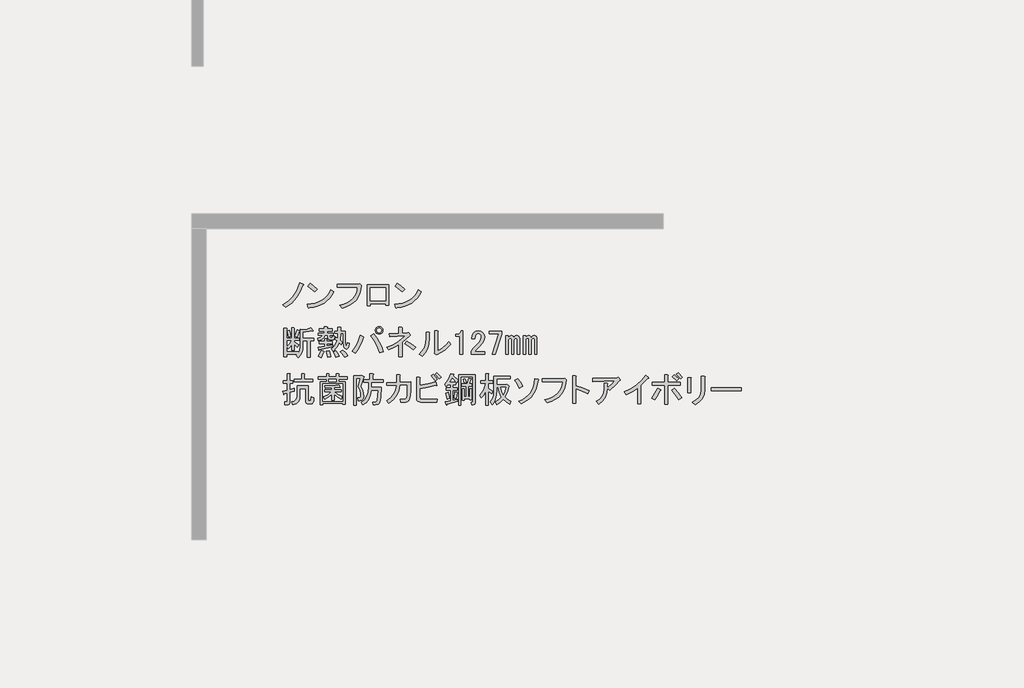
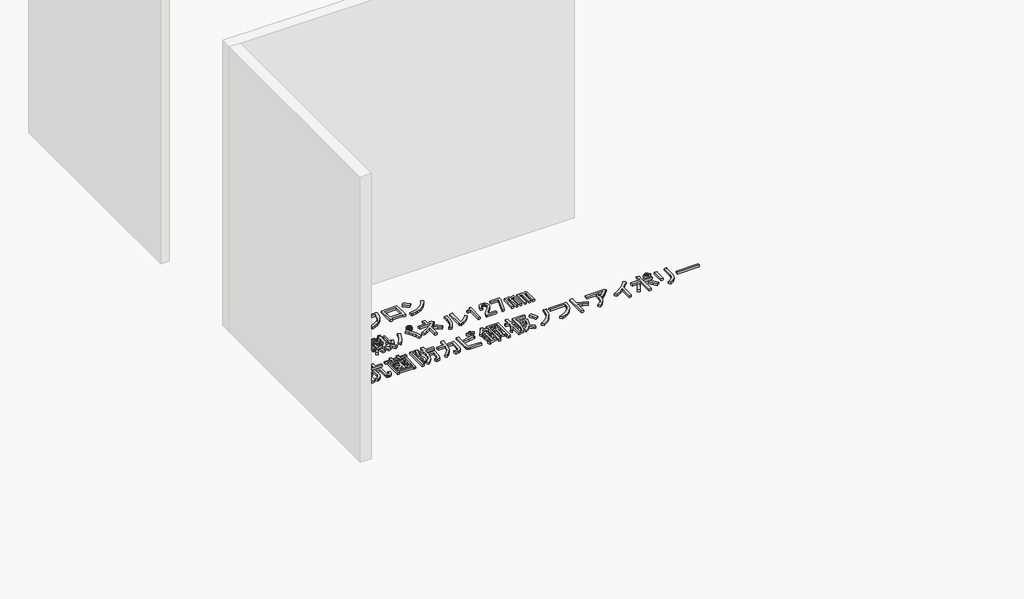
# One storey, part 20 of 117: 1 proxy.
"""IFC4 building model written with IfcOpenShell, lengths in millimetres."""

from ifc_helpers import new_model, si_unit, frame, origin, place, context, project, spatial, polyline, outline, extrude, element, save

model = new_model("IFC4")

# Units and contexts
model_context = context("Model", 3, world=origin())
ifc_project = project(units=[si_unit("LENGTHUNIT", "METRE", prefix="MILLI")], contexts=[model_context])

# Site, building, storey
site = spatial("IfcSite", under=ifc_project)
building = spatial("IfcBuilding", under=site)
storey = spatial("IfcBuildingStorey", under=building, Name="レベル 1", Elevation=500.0)

# Proxy
placement = place(None, origin())
element("IfcBuildingElementProxy", 1, Name="200㎜\u3000MS Pゴシック", ObjectType="200㎜\u3000MS Pゴシック", at=placement, inside=storey, context=model_context, shape_type="SweptSolid", body=[
    extrude(outline(polyline([(-7056.3293015, -8607.0496882), (-7081.9047498, -8666.8215225), (-7110.353844, -8712.7998566), (-7152.0217093, -8758.2034615), (-7201.1610538, -8795.560858), (-7228.7480543, -8773.7211493), (-7181.0455327, -8743.2605029), (-7141.3892195, -8704.7536481), (-7124.0036619, -8680.8305462), (-7108.6296565, -8652.7406577), (-7095.2672031, -8620.4839827), (-7083.9163019, -8584.0605212), (-7052.8809264, -8597.8540214), (-7049.7199159, -8602.4518548), (-7056.3293015, -8607.0496882)])), frame((0.0, 0.0, 500.0), z_axis=(0.0, 0.0, 1.0), x_axis=(1.0, 0.0, 0.0)), (0.0, 0.0, 1.0), 25.0),
    extrude(outline(polyline([(-6956.6022948, -8662.2236891), (-7015.2246708, -8615.0958967), (-6995.6838788, -8590.9572713), (-6968.3842429, -8610.7854279), (-6934.7625862, -8640.3839804), (-6956.6022948, -8662.2236891)])), frame((0.0, 0.0, 500.0), z_axis=(0.0, 0.0, 1.0), x_axis=(1.0, 0.0, 0.0)), (0.0, 0.0, 1.0), 25.0),
    extrude(outline(polyline([(-6794.5286672, -8662.2236891), (-6811.052131, -8691.965924), (-6830.1618761, -8717.9724192), (-6851.8579025, -8740.2431748), (-6876.1402102, -8758.7781907), (-6903.0087992, -8773.577467), (-6932.4636694, -8784.6410036), (-6964.504821, -8791.9688006), (-6999.1322539, -8795.560858), (-7004.8795456, -8803.6070664), (-7010.6268374, -8797.8597747), (-7019.8225042, -8767.9738575), (-6983.9917321, -8765.2977748), (-6951.2142088, -8758.9937141), (-6921.4899342, -8749.0616756), (-6894.8189084, -8735.5016591), (-6871.2011313, -8718.3136646), (-6850.636603, -8697.4976923), (-6833.1253234, -8673.053742), (-6818.6672926, -8644.9818138), (-6794.5286672, -8662.2236891)])), frame((0.0, 0.0, 500.0), z_axis=(0.0, 0.0, 1.0), x_axis=(1.0, 0.0, 0.0)), (0.0, 0.0, 1.0), 25.0),
    extrude(outline(polyline([(-6743.7685864, -8777.1695243), (-6709.985287, -8767.4889298), (-6680.4765359, -8755.1142922), (-6655.242333, -8740.0456116), (-6634.2826783, -8722.282888), (-6617.597572, -8701.8261214), (-6605.1870138, -8678.6753118), (-6597.0510039, -8652.8304591), (-6593.1895423, -8624.2915635), (-6765.6082951, -8624.2915635), (-6765.6082951, -8599.0034798), (-6590.8906256, -8599.0034798), (-6574.7982086, -8595.5551047), (-6562.1541668, -8607.0496882), (-6565.674383, -8643.5449909), (-6573.9361149, -8676.5919185), (-6586.9393625, -8706.1904711), (-6604.6841258, -8732.3406486), (-6627.1704048, -8755.042451), (-6654.3981995, -8774.2958784), (-6686.3675099, -8790.1009308), (-6723.078336, -8802.4576081), (-6743.7685864, -8777.1695243)])), frame((0.0, 0.0, 500.0), z_axis=(0.0, 0.0, 1.0), x_axis=(1.0, 0.0, 0.0)), (0.0, 0.0, 1.0), 25.0),
    extrude(outline(polyline([(-6329.044013, -8776.020066), (-6355.4815551, -8776.020066), (-6355.4815551, -8763.3760241), (-6483.0714321, -8763.3760241), (-6483.0714321, -8781.7673577), (-6509.5089742, -8781.7673577), (-6509.5089742, -8602.4518548), (-6329.044013, -8602.4518548), (-6329.044013, -8776.020066)]), holes=[polyline([(-6483.0714321, -8627.7399386), (-6483.0714321, -8738.0879404), (-6355.4815551, -8738.0879404), (-6355.4815551, -8627.7399386), (-6483.0714321, -8627.7399386)])]), frame((0.0, 0.0, 500.0), z_axis=(0.0, 0.0, 1.0), x_axis=(1.0, 0.0, 0.0)), (0.0, 0.0, 1.0), 25.0),
    extrude(outline(polyline([(-6052.9900951, -8662.2236891), (-6069.5135589, -8691.965924), (-6088.623304, -8717.9724192), (-6110.3193304, -8740.2431748), (-6134.6016381, -8758.7781907), (-6161.4702271, -8773.577467), (-6190.9250974, -8784.6410036), (-6222.9662489, -8791.9688006), (-6257.5936818, -8795.560858), (-6263.3409736, -8803.6070664), (-6269.0882653, -8797.8597747), (-6278.2839321, -8767.9738575), (-6242.4531601, -8765.2977748), (-6209.6756367, -8758.9937141), (-6179.9513622, -8749.0616756), (-6153.2803363, -8735.5016591), (-6129.6625593, -8718.3136646), (-6109.0980309, -8697.4976923), (-6091.5867514, -8673.053742), (-6077.1287205, -8644.9818138), (-6052.9900951, -8662.2236891)])), frame((0.0, 0.0, 500.0), z_axis=(0.0, 0.0, 1.0), x_axis=(1.0, 0.0, 0.0)), (0.0, 0.0, 1.0), 25.0),
    extrude(outline(polyline([(-6215.0637228, -8662.2236891), (-6273.6860987, -8615.0958967), (-6254.1453067, -8590.9572713), (-6226.8456709, -8610.7854279), (-6193.2240141, -8640.3839804), (-6215.0637228, -8662.2236891)])), frame((0.0, 0.0, 500.0), z_axis=(0.0, 0.0, 1.0), x_axis=(1.0, 0.0, 0.0)), (0.0, 0.0, 1.0), 25.0),
    extrude(outline(polyline([(-7122.9978859, -9039.2345221), (-7105.7560106, -8986.3594379), (-7085.0657603, -8992.1067296), (-7083.3415727, -8995.2677401), (-7087.364677, -8997.8540214), (-7104.6065523, -9046.1312722), (-7122.9978859, -9039.2345221)])), frame((0.0, 0.0, 500.0), z_axis=(0.0, 0.0, 1.0), x_axis=(1.0, 0.0, 0.0)), (0.0, 0.0, 1.0), 25.0),
    extrude(outline(polyline([(-6968.9704667, -8990.9572713), (-6970.6946542, -8995.5551047), (-6978.1661335, -8993.256188), (-7055.1798431, -9005.9002299), (-7055.1798431, -9055.326939), (-6963.2231749, -9055.326939), (-6963.2231749, -9077.1666477), (-6994.2585505, -9077.1666477), (-6994.2585505, -9217.4005666), (-7017.2477175, -9217.4005666), (-7017.2477175, -9077.1666477), (-7055.1798431, -9077.1666477), (-7055.1798431, -9126.5933568), (-7057.7661244, -9154.3958807), (-7065.5249683, -9179.1810764), (-7078.4563747, -9200.948944), (-7096.5603438, -9219.6994833), (-7113.8022191, -9200.1586914), (-7103.4570939, -9190.9630245), (-7193.1148454, -9190.9630245), (-7193.1148454, -9212.8027332), (-7216.1040124, -9212.8027332), (-7216.1040124, -8973.715396), (-7194.2643037, -8973.715396), (-7189.3791057, -8976.0143127), (-7193.1148454, -8980.6121461), (-7193.1148454, -9056.4763974), (-7150.5848863, -9056.4763974), (-7150.5848863, -8969.1175626), (-7132.1935527, -8969.1175626), (-7127.3083547, -8971.4164793), (-7131.0440943, -8976.0143127), (-7131.0440943, -9056.4763974), (-7087.364677, -9056.4763974), (-7087.364677, -9074.867731), (-7131.0440943, -9074.867731), (-7131.0440943, -9084.0633978), (-7090.813052, -9110.5009399), (-7104.6065523, -9132.3406486), (-7131.0440943, -9105.9031065), (-7131.0440943, -9158.7781907), (-7150.5848863, -9158.7781907), (-7150.5848863, -9110.5009399), (-7163.8036574, -9130.3290965), (-7178.1718868, -9146.1341488), (-7190.8159287, -9127.7428152), (-7168.97622, -9103.6041898), (-7151.7343447, -9074.867731), (-7193.1148454, -9074.867731), (-7193.1148454, -9169.1233159), (-7095.4108854, -9169.1233159), (-7095.4108854, -9182.9168161), (-7082.479479, -9158.7781907), (-7078.1690102, -9125.4438985), (-7078.1690102, -8980.6121461), (-7056.3293015, -8986.3594379), (-7020.1213634, -8978.8879586), (-6989.660717, -8965.6691875), (-6968.9704667, -8990.9572713)])), frame((0.0, 0.0, 500.0), z_axis=(0.0, 0.0, 1.0), x_axis=(1.0, 0.0, 0.0)), (0.0, 0.0, 1.0), 25.0),
    extrude(outline(polyline([(-7177.0224284, -9047.2807305), (-7189.6664703, -8996.7045631), (-7170.1256783, -8989.8078129), (-7162.3668344, -9013.9464383), (-7157.4816364, -9040.3839804), (-7177.0224284, -9047.2807305)])), frame((0.0, 0.0, 500.0), z_axis=(0.0, 0.0, 1.0), x_axis=(1.0, 0.0, 0.0)), (0.0, 0.0, 1.0), 25.0),
    extrude(outline(polyline([(-6878.1632569, -9167.9738575), (-6874.7148818, -9172.8590555), (-6880.4621736, -9176.020066), (-6890.2325696, -9201.5955143), (-6901.1524239, -9220.8489417), (-6924.141591, -9209.3543582), (-6911.4975491, -9185.790462), (-6901.1524239, -9158.7781907), (-6878.1632569, -9167.9738575)])), frame((0.0, 0.0, 500.0), z_axis=(0.0, 0.0, 1.0), x_axis=(1.0, 0.0, 0.0)), (0.0, 0.0, 1.0), 25.0),
    extrude(outline(polyline([(-6833.3343812, -9163.3760241), (-6823.2766206, -9190.67566), (-6818.3914226, -9212.8027332), (-6847.1278814, -9218.550025), (-6849.7141627, -9196.9976809), (-6857.4730066, -9166.8243992), (-6833.3343812, -9163.3760241)])), frame((0.0, 0.0, 500.0), z_axis=(0.0, 0.0, 1.0), x_axis=(1.0, 0.0, 0.0)), (0.0, 0.0, 1.0), 25.0),
    extrude(outline(polyline([(-6718.388546, -9157.6287323), (-6693.6751914, -9178.8937119), (-6674.7091286, -9203.6070664), (-6701.1466707, -9218.550025), (-6720.4000981, -9188.9514724), (-6739.0787963, -9169.1233159), (-6718.388546, -9157.6287323)])), frame((0.0, 0.0, 500.0), z_axis=(0.0, 0.0, 1.0), x_axis=(1.0, 0.0, 0.0)), (0.0, 0.0, 1.0), 25.0),
    extrude(outline(polyline([(-6777.0109219, -9216.2511083), (-6785.344495, -9191.5377537), (-6798.8506306, -9170.2727742), (-6778.1603803, -9162.2265657), (-6761.2058696, -9183.7789098), (-6749.4239215, -9207.0554415), (-6777.0109219, -9216.2511083)])), frame((0.0, 0.0, 500.0), z_axis=(0.0, 0.0, 1.0), x_axis=(1.0, 0.0, 0.0)), (0.0, 0.0, 1.0), 25.0),
    extrude(outline(polyline([(-6916.0953825, -9153.0308989), (-6918.1069346, -9157.9160969), (-6921.8426743, -9156.479274), (-6927.589966, -9132.3406486), (-6872.4159651, -9124.2944401), (-6872.4159651, -9101.3052731), (-6916.0953825, -9101.3052731), (-6916.0953825, -9082.9139395), (-6872.4159651, -9082.9139395), (-6872.4159651, -9059.9247724), (-6854.0246315, -9059.9247724), (-6849.1394335, -9062.2236891), (-6852.8751732, -9066.8215225), (-6852.8751732, -9082.9139395), (-6808.0462974, -9082.9139395), (-6808.0462974, -9101.3052731), (-6852.8751732, -9101.3052731), (-6852.8751732, -9120.8460651), (-6802.2990057, -9111.6503983), (-6802.2990057, -9127.7428152), (-6916.0953825, -9153.0308989)])), frame((0.0, 0.0, 500.0), z_axis=(0.0, 0.0, 1.0), x_axis=(1.0, 0.0, 0.0)), (0.0, 0.0, 1.0), 25.0),
    extrude(outline(polyline([(-6845.978423, -9031.1883136), (-6871.2665068, -9031.1883136), (-6875.8643402, -9048.6457123), (-6886.2094654, -9061.9363245), (-6902.3018823, -9071.0601502), (-6924.141591, -9076.0171893), (-6928.7394244, -9056.4763974), (-6903.4513406, -9047.8554597), (-6895.9798614, -9040.5276627), (-6891.9567571, -9031.1883136), (-6927.589966, -9031.1883136), (-6927.589966, -9012.79698), (-6873.5654235, -9012.79698), (-6873.5654235, -8995.5551047), (-6917.2448409, -8995.5551047), (-6917.2448409, -8977.1637711), (-6873.5654235, -8977.1637711), (-6873.5654235, -8958.7724374), (-6851.7257148, -8958.7724374), (-6846.8405168, -8961.0713541), (-6850.5762564, -8965.6691875), (-6850.5762564, -8977.1637711), (-6808.0462974, -8977.1637711), (-6808.0462974, -8995.5551047), (-6850.5762564, -8995.5551047), (-6850.5762564, -9012.79698), (-6797.7011723, -9012.79698), (-6797.7011723, -9031.1883136), (-6826.4376311, -9031.1883136), (-6826.4376311, -9043.8323555), (-6825.0008081, -9049.0049181), (-6820.6903393, -9050.7291056), (-6810.3452141, -9050.7291056), (-6806.6094745, -9047.5680951), (-6806.8968391, -9038.0850637), (-6787.3560471, -9040.3839804), (-6790.229693, -9061.9363245), (-6795.5459378, -9067.3244106), (-6803.448464, -9069.1204392), (-6827.5870894, -9069.1204392), (-6841.3805896, -9064.2352412), (-6845.978423, -9049.5796472), (-6845.978423, -9031.1883136)])), frame((0.0, 0.0, 500.0), z_axis=(0.0, 0.0, 1.0), x_axis=(1.0, 0.0, 0.0)), (0.0, 0.0, 1.0), 25.0),
    extrude(outline(polyline([(-6714.9401709, -9013.9464383), (-6736.7798796, -9013.9464383), (-6741.377713, -9071.4193559), (-6721.836921, -9089.8106896), (-6732.1820462, -9111.6503983), (-6748.2744631, -9095.5579813), (-6767.5278905, -9133.2027424), (-6797.7011723, -9165.6749408), (-6814.9430475, -9144.9846905), (-6799.8564067, -9133.0590601), (-6786.7813179, -9117.9724192), (-6775.7177813, -9099.7247679), (-6766.6657967, -9078.316106), (-6783.907672, -9063.3731475), (-6775.8614636, -9046.1312722), (-6762.0679633, -9056.4763974), (-6759.7690466, -9013.9464383), (-6787.3560471, -9013.9464383), (-6787.3560471, -8995.5551047), (-6759.7690466, -8995.5551047), (-6759.7690466, -8961.0713541), (-6737.9293379, -8961.0713541), (-6733.04414, -8963.3702708), (-6736.7798796, -8967.9681043), (-6736.7798796, -8995.5551047), (-6695.3993789, -8995.5551047), (-6695.3993789, -9092.1096063), (-6691.9510039, -9116.2482317), (-6688.7181523, -9118.2597838), (-6685.9163475, -9115.0987733), (-6681.6058787, -9093.2590646), (-6662.0650867, -9100.1558147), (-6666.591079, -9126.9525626), (-6674.421764, -9142.9731384), (-6685.5571418, -9148.2175421), (-6699.9972123, -9142.6857738), (-6706.5347567, -9135.3579768), (-6711.2044313, -9123.719711), (-6714.9401709, -9087.5117729), (-6714.9401709, -9013.9464383)])), frame((0.0, 0.0, 500.0), z_axis=(0.0, 0.0, 1.0), x_axis=(1.0, 0.0, 0.0)), (0.0, 0.0, 1.0), 25.0),
    extrude(outline(polyline([(-6456.3120417, -9016.245355), (-6429.6589762, -9052.9561812), (-6407.1726971, -9090.6727833), (-6388.8532047, -9129.3951616), (-6374.7004987, -9169.1233159), (-6405.7358742, -9179.468441), (-6421.1817208, -9136.3637528), (-6438.7828018, -9097.856898), (-6458.5391173, -9063.9478766), (-6480.4506671, -9034.6366887), (-6456.3120417, -9016.245355)])), frame((0.0, 0.0, 500.0), z_axis=(0.0, 0.0, 1.0), x_axis=(1.0, 0.0, 0.0)), (0.0, 0.0, 1.0), 25.0),
    extrude(outline(polyline([(-6543.6708765, -9042.6828971), (-6539.6477722, -9048.1428243), (-6545.9697932, -9053.0280223), (-6557.8954236, -9088.4457078), (-6572.9820644, -9122.282888), (-6591.2297158, -9154.539563), (-6612.6383776, -9185.2157328), (-6639.0759197, -9167.9738575), (-6615.8712292, -9136.5074351), (-6596.8333252, -9103.0294606), (-6581.9622078, -9067.539934), (-6571.2578769, -9030.0388553), (-6543.6708765, -9042.6828971)])), frame((0.0, 0.0, 500.0), z_axis=(0.0, 0.0, 1.0), x_axis=(1.0, 0.0, 0.0)), (0.0, 0.0, 1.0), 25.0),
    extrude(outline(polyline([(-6410.3337076, -9021.9926468), (-6422.9777495, -9019.6937301), (-6433.3228747, -9012.79698), (-6440.2196248, -9002.4518548), (-6442.5185415, -8989.8078129), (-6440.2196248, -8977.1637711), (-6433.3228747, -8966.8186459), (-6422.9777495, -8959.9218958), (-6410.3337076, -8957.6229791), (-6397.6896657, -8959.9218958), (-6387.3445406, -8966.8186459), (-6380.4477905, -8977.1637711), (-6378.1488738, -8989.8078129), (-6380.4477905, -9002.4518548), (-6387.3445406, -9012.79698), (-6397.6896657, -9019.6937301), (-6410.3337076, -9021.9926468)]), holes=[polyline([(-6410.3337076, -9010.4980633), (-6402.0001346, -9009.0612403), (-6395.390749, -9004.7507715), (-6391.0802802, -8998.141386), (-6389.6434573, -8989.8078129), (-6391.0802802, -8981.4742399), (-6395.390749, -8974.8648544), (-6402.0001346, -8970.5543855), (-6410.3337076, -8969.1175626), (-6418.6672807, -8970.5543855), (-6425.2766662, -8974.8648544), (-6429.587135, -8981.4742399), (-6431.023958, -8989.8078129), (-6429.587135, -8998.141386), (-6425.2766662, -9004.7507715), (-6418.6672807, -9009.0612403), (-6410.3337076, -9010.4980633)])]), frame((0.0, 0.0, 500.0), z_axis=(0.0, 0.0, 1.0), x_axis=(1.0, 0.0, 0.0)), (0.0, 0.0, 1.0), 25.0),
    extrude(outline(polyline([(-6120.6702029, -9155.3298156), (-6157.7402348, -9126.0186277), (-6190.7871624, -9104.7536481), (-6173.5452871, -9082.9139395), (-6134.7510677, -9106.1904711), (-6101.1294109, -9132.3406486), (-6120.6702029, -9155.3298156)])), frame((0.0, 0.0, 500.0), z_axis=(0.0, 0.0, 1.0), x_axis=(1.0, 0.0, 0.0)), (0.0, 0.0, 1.0), 25.0),
    extrude(outline(polyline([(-6166.648537, -9011.6475216), (-6159.7517869, -9009.3486049), (-6147.107745, -9026.5904802), (-6145.9582866, -9032.6251366), (-6151.7055784, -9034.6366887), (-6214.9257878, -9090.9601479), (-6214.9257878, -9211.6532749), (-6241.3633299, -9211.6532749), (-6241.3633299, -9109.3514816), (-6281.5943722, -9133.4901069), (-6326.4232479, -9155.3298156), (-6345.9640399, -9134.6395653), (-6300.4167527, -9115.1706145), (-6259.1799343, -9092.3969709), (-6222.2535848, -9066.3186345), (-6189.637704, -9036.9356054), (-6319.5264978, -9042.6828971), (-6322.9748729, -9017.3948134), (-6241.3633299, -9015.0958967), (-6241.3633299, -8963.3702708), (-6218.3741628, -8963.3702708), (-6212.3395065, -8966.8186459), (-6214.9257878, -8972.5659377), (-6214.9257878, -9013.9464383), (-6166.648537, -9011.6475216)])), frame((0.0, 0.0, 500.0), z_axis=(0.0, 0.0, 1.0), x_axis=(1.0, 0.0, 0.0)), (0.0, 0.0, 1.0), 25.0),
    extrude(outline(polyline([(-6067.703162, -9193.2619413), (-6042.5587606, -9164.0225944), (-6024.5984738, -9131.4785548), (-6013.8223018, -9095.6298225), (-6010.2302444, -9056.4763974), (-6010.2302444, -9004.7507715), (-5986.091619, -9004.7507715), (-5980.3443273, -9008.1991466), (-5983.7927023, -9013.9464383), (-5983.7927023, -9055.326939), (-5987.6002831, -9101.0897496), (-5999.0230255, -9141.82368), (-6018.0609295, -9177.5287301), (-6044.713995, -9208.2048998), (-6067.703162, -9193.2619413)])), frame((0.0, 0.0, 500.0), z_axis=(0.0, 0.0, 1.0), x_axis=(1.0, 0.0, 0.0)), (0.0, 0.0, 1.0), 25.0),
    extrude(outline(polyline([(-5913.6757429, -9162.2265657), (-5888.8905471, -9150.0135708), (-5865.1111275, -9132.9153778), (-5842.3374839, -9110.9319868), (-5820.5696163, -9084.0633978), (-5804.4771994, -9105.9031065), (-5827.753731, -9133.7056304), (-5853.9039086, -9157.3413678), (-5882.9277319, -9176.8103186), (-5914.8252012, -9192.1124829), (-5924.020868, -9196.7103163), (-5942.4122017, -9182.9168161), (-5940.113285, -9177.1695243), (-5940.113285, -8992.1067296), (-5915.9746596, -8992.1067296), (-5910.2273678, -8995.5551047), (-5913.6757429, -9001.3023965), (-5913.6757429, -9162.2265657)])), frame((0.0, 0.0, 500.0), z_axis=(0.0, 0.0, 1.0), x_axis=(1.0, 0.0, 0.0)), (0.0, 0.0, 1.0), 25.0),
    extrude(outline(polyline([(-5725.1645731, -9015.0958967), (-5717.1183647, -9004.1760423), (-5713.6699896, -8992.1067296), (-5699.8764894, -8992.1067296), (-5699.8764894, -9190.9630245), (-5726.3140315, -9190.9630245), (-5726.3140315, -9038.0850637), (-5760.797782, -9038.0850637), (-5760.797782, -9024.2915635), (-5750.4526569, -9024.2915635), (-5736.0844275, -9021.9926468), (-5725.1645731, -9015.0958967)])), frame((0.0, 0.0, 500.0), z_axis=(0.0, 0.0, 1.0), x_axis=(1.0, 0.0, 0.0)), (0.0, 0.0, 1.0), 25.0),
    extrude(outline(polyline([(-5625.1616965, -9062.2236891), (-5620.5638631, -9030.900949), (-5606.7703629, -9008.1991466), (-5590.3905814, -8996.9919276), (-5571.137154, -8993.256188), (-5548.4353515, -8996.9919276), (-5530.9061116, -9008.1991466), (-5519.6988927, -9024.8662927), (-5515.9631531, -9044.9818138), (-5520.2736219, -9070.8446268), (-5533.2050283, -9093.2590646), (-5566.5393205, -9131.1911902), (-5584.9306542, -9151.8814406), (-5598.7241544, -9170.2727742), (-5512.514778, -9170.2727742), (-5512.514778, -9192.1124829), (-5629.7595299, -9192.1124829), (-5629.7595299, -9172.5716909), (-5623.7248736, -9158.7781907), (-5610.2187379, -9140.3868571), (-5563.0909455, -9088.6612312), (-5548.4353515, -9067.3962517), (-5543.5501535, -9044.9818138), (-5545.8490702, -9032.337772), (-5552.7458203, -9021.9926468), (-5560.5046642, -9016.8200842), (-5569.9876956, -9015.0958967), (-5578.6086332, -9016.8200842), (-5586.0801125, -9021.9926468), (-5595.5631439, -9038.3724283), (-5598.7241544, -9062.2236891), (-5625.1616965, -9062.2236891)])), frame((0.0, 0.0, 500.0), z_axis=(0.0, 0.0, 1.0), x_axis=(1.0, 0.0, 0.0)), (0.0, 0.0, 1.0), 25.0),
    extrude(outline(polyline([(-5478.0310274, -8995.5551047), (-5368.832484, -8995.5551047), (-5368.832484, -9020.8431884), (-5424.0064849, -9192.1124829), (-5449.2945686, -9192.1124829), (-5394.1205677, -9017.3948134), (-5478.0310274, -9017.3948134), (-5478.0310274, -8995.5551047)])), frame((0.0, 0.0, 500.0), z_axis=(0.0, 0.0, 1.0), x_axis=(1.0, 0.0, 0.0)), (0.0, 0.0, 1.0), 25.0),
    extrude(outline(polyline([(-5315.9573998, -9193.2619413), (-5335.4981918, -9193.2619413), (-5335.4981918, -9035.786147), (-5315.9573998, -9035.786147), (-5315.9573998, -9053.0280223), (-5303.8880871, -9037.5103346), (-5290.6693161, -9032.337772), (-5281.4736492, -9033.7745949), (-5274.5768991, -9038.0850637), (-5267.680149, -9051.878564), (-5254.7487426, -9037.22297), (-5241.2426069, -9032.337772), (-5232.9090339, -9033.7745949), (-5226.2996483, -9038.0850637), (-5221.1270858, -9046.7060014), (-5219.4028982, -9058.7753141), (-5219.4028982, -9193.2619413), (-5238.9436902, -9193.2619413), (-5238.9436902, -9069.1204392), (-5241.5299715, -9059.6374078), (-5249.2888154, -9056.4763974), (-5259.6339406, -9061.0742308), (-5265.6685969, -9069.6951684), (-5267.680149, -9079.4655644), (-5267.680149, -9193.2619413), (-5287.220941, -9193.2619413), (-5287.220941, -9069.1204392), (-5289.8072223, -9059.6374078), (-5297.5660662, -9056.4763974), (-5307.9111913, -9061.0742308), (-5313.9458477, -9069.6951684), (-5315.9573998, -9079.4655644), (-5315.9573998, -9193.2619413)])), frame((0.0, 0.0, 500.0), z_axis=(0.0, 0.0, 1.0), x_axis=(1.0, 0.0, 0.0)), (0.0, 0.0, 1.0), 25.0),
    extrude(outline(polyline([(-5094.1119379, -9032.337772), (-5085.7783648, -9033.7745949), (-5079.1689793, -9038.0850637), (-5073.9964167, -9046.7060014), (-5072.2722292, -9058.7753141), (-5072.2722292, -9193.2619413), (-5091.8130212, -9193.2619413), (-5091.8130212, -9069.1204392), (-5094.3993024, -9059.6374078), (-5102.1581463, -9056.4763974), (-5112.5032715, -9061.0742308), (-5118.5379278, -9069.6951684), (-5120.54948, -9079.4655644), (-5120.54948, -9193.2619413), (-5140.0902719, -9193.2619413), (-5140.0902719, -9069.1204392), (-5142.6765532, -9059.6374078), (-5150.4353971, -9056.4763974), (-5160.7805223, -9061.0742308), (-5166.8151786, -9069.6951684), (-5168.8267307, -9079.4655644), (-5168.8267307, -9193.2619413), (-5188.3675227, -9193.2619413), (-5188.3675227, -9035.786147), (-5168.8267307, -9035.786147), (-5168.8267307, -9053.0280223), (-5156.757418, -9037.5103346), (-5143.538647, -9032.337772), (-5134.3429802, -9033.7745949), (-5127.4462301, -9038.0850637), (-5120.54948, -9051.878564), (-5107.6180735, -9037.22297), (-5094.1119379, -9032.337772)])), frame((0.0, 0.0, 500.0), z_axis=(0.0, 0.0, 1.0), x_axis=(1.0, 0.0, 0.0)), (0.0, 0.0, 1.0), 25.0),
    extrude(outline(polyline([(-7212.6556373, -9527.7428152), (-7216.1040124, -9533.7774715), (-7219.5523875, -9528.8922735), (-7227.5985959, -9505.9031065), (-7189.6664703, -9497.856898), (-7189.6664703, -9438.0850637), (-7223.0007625, -9438.0850637), (-7223.0007625, -9416.245355), (-7189.6664703, -9416.245355), (-7189.6664703, -9356.4735207), (-7167.8267616, -9356.4735207), (-7162.9415636, -9358.7724374), (-7166.6773033, -9363.3702708), (-7166.6773033, -9416.245355), (-7140.2397612, -9416.245355), (-7140.2397612, -9438.0850637), (-7166.6773033, -9438.0850637), (-7166.6773033, -9492.1096063), (-7131.0440943, -9481.7644811), (-7128.7451776, -9503.6041898), (-7166.6773033, -9515.0987733), (-7166.6773033, -9603.6070664), (-7170.4130429, -9615.6763791), (-7181.6202618, -9619.6994833), (-7208.0578039, -9619.6994833), (-7211.506179, -9594.4113996), (-7194.2643037, -9594.4113996), (-7190.8159287, -9593.2619413), (-7189.6664703, -9589.8135662), (-7189.6664703, -9520.8460651), (-7212.6556373, -9527.7428152)])), frame((0.0, 0.0, 500.0), z_axis=(0.0, 0.0, 1.0), x_axis=(1.0, 0.0, 0.0)), (0.0, 0.0, 1.0), 25.0),
    extrude(outline(polyline([(-7066.6744266, -9403.6013132), (-7066.6744266, -9357.6229791), (-7044.8347179, -9357.6229791), (-7039.9495199, -9359.9218958), (-7043.6852596, -9364.5197292), (-7043.6852596, -9403.6013132), (-6972.4188418, -9403.6013132), (-6972.4188418, -9425.4410219), (-7128.7451776, -9425.4410219), (-7128.7451776, -9403.6013132), (-7066.6744266, -9403.6013132)])), frame((0.0, 0.0, 500.0), z_axis=(0.0, 0.0, 1.0), x_axis=(1.0, 0.0, 0.0)), (0.0, 0.0, 1.0), 25.0),
    extrude(outline(polyline([(-7010.3509674, -9461.0742308), (-7010.3509674, -9577.1695243), (-7008.3394153, -9584.0662744), (-7002.3047589, -9586.3651911), (-6995.4080088, -9586.3651911), (-6990.8101754, -9584.0662744), (-6988.5112587, -9577.1695243), (-6986.212342, -9554.1803573), (-6962.0737166, -9562.2265657), (-6964.3726333, -9585.2157328), (-6966.67155, -9596.7821575), (-6971.2693834, -9605.0438894), (-6978.1661335, -9610.0009285), (-6987.3618003, -9611.6532749), (-7009.201509, -9611.6532749), (-7019.7621576, -9610.3601342), (-7027.3054781, -9606.4807123), (-7031.8314703, -9600.0150091), (-7033.3401344, -9590.9630245), (-7033.3401344, -9482.9139395), (-7080.4679269, -9482.9139395), (-7080.4679269, -9548.4330655), (-7084.2036665, -9573.2901024), (-7095.4108854, -9593.8366704), (-7114.0895837, -9610.0727697), (-7140.2397612, -9621.9984001), (-7149.435428, -9596.7103163), (-7129.3199068, -9589.238837), (-7114.9516774, -9578.3189827), (-7106.3307398, -9563.9507533), (-7103.4570939, -9546.1341488), (-7103.4570939, -9461.0742308), (-7010.3509674, -9461.0742308)])), frame((0.0, 0.0, 500.0), z_axis=(0.0, 0.0, 1.0), x_axis=(1.0, 0.0, 0.0)), (0.0, 0.0, 1.0), 25.0),
    extrude(outline(polyline([(-6870.1170484, -9461.0742308), (-6804.0231932, -9457.3384911), (-6752.8722965, -9450.7291056), (-6742.5271714, -9464.5226058), (-6740.2282547, -9470.5572622), (-6747.1250048, -9470.2698976), (-6791.9538805, -9473.7182726), (-6791.9538805, -9490.9601479), (-6732.1820462, -9490.9601479), (-6732.1820462, -9509.3514816), (-6788.5055054, -9509.3514816), (-6757.1827653, -9533.7774715), (-6720.6874627, -9549.5825239), (-6728.7336711, -9571.4222326), (-6761.2058696, -9555.9045448), (-6791.9538805, -9530.0417319), (-6791.9538805, -9580.6178994), (-6811.4946725, -9580.6178994), (-6811.4946725, -9531.1911902), (-6836.4953916, -9553.8929927), (-6872.4159651, -9573.7211493), (-6881.611632, -9554.1803573), (-6842.8174126, -9534.3522007), (-6813.7935892, -9509.3514816), (-6871.2665068, -9509.3514816), (-6871.2665068, -9490.9601479), (-6811.4946725, -9490.9601479), (-6811.4946725, -9476.0171893), (-6865.519215, -9478.316106), (-6870.1170484, -9461.0742308)])), frame((0.0, 0.0, 500.0), z_axis=(0.0, 0.0, 1.0), x_axis=(1.0, 0.0, 0.0)), (0.0, 0.0, 1.0), 25.0),
    extrude(outline(polyline([(-6751.7228382, -9423.1421052), (-6696.5488373, -9423.1421052), (-6696.5488373, -9617.4005666), (-6716.0896293, -9617.4005666), (-6716.0896293, -9608.2048998), (-6888.5083821, -9608.2048998), (-6888.5083821, -9621.9984001), (-6908.0491741, -9621.9984001), (-6908.0491741, -9423.1421052), (-6855.1740899, -9423.1421052), (-6855.1740899, -9402.4518548), (-6925.2910493, -9402.4518548), (-6925.2910493, -9384.0605212), (-6855.1740899, -9384.0605212), (-6855.1740899, -9357.6229791), (-6836.7827562, -9357.6229791), (-6831.8975582, -9359.9218958), (-6835.6332979, -9364.5197292), (-6835.6332979, -9384.0605212), (-6771.2636302, -9384.0605212), (-6771.2636302, -9357.6229791), (-6752.8722965, -9357.6229791), (-6747.9870985, -9359.9218958), (-6751.7228382, -9364.5197292), (-6751.7228382, -9384.0605212), (-6678.1575036, -9384.0605212), (-6678.1575036, -9402.4518548), (-6751.7228382, -9402.4518548), (-6751.7228382, -9423.1421052)]), holes=[polyline([(-6888.5083821, -9441.5334388), (-6888.5083821, -9589.8135662), (-6716.0896293, -9589.8135662), (-6716.0896293, -9441.5334388), (-6888.5083821, -9441.5334388)]), polyline([(-6835.6332979, -9423.1421052), (-6771.2636302, -9423.1421052), (-6771.2636302, -9402.4518548), (-6835.6332979, -9402.4518548), (-6835.6332979, -9423.1421052)])]), frame((0.0, 0.0, 500.0), z_axis=(0.0, 0.0, 1.0), x_axis=(1.0, 0.0, 0.0)), (0.0, 0.0, 1.0), 25.0),
    extrude(outline(polyline([(-6542.5214181, -9520.8460651), (-6540.5817071, -9548.5049067), (-6545.1076994, -9568.2612221), (-6556.0993949, -9580.1150114), (-6573.5567936, -9584.0662744), (-6587.3502938, -9584.0662744), (-6591.9481272, -9562.2265657), (-6580.4535437, -9562.2265657), (-6572.1199707, -9560.0713313), (-6566.6600435, -9553.6056281), (-6564.0737622, -9542.8294561), (-6564.3611268, -9527.7428152), (-6571.2578769, -9500.7305439), (-6587.3502938, -9465.6720642), (-6568.9589602, -9394.4056463), (-6603.4427108, -9394.4056463), (-6603.4427108, -9623.1478584), (-6626.4318778, -9623.1478584), (-6626.4318778, -9372.5659377), (-6562.0622101, -9372.5659377), (-6559.7632934, -9367.9681043), (-6535.624668, -9380.6121461), (-6534.187845, -9384.3478858), (-6539.073043, -9386.3594379), (-6565.5105851, -9464.5226058), (-6549.9928974, -9496.9948043), (-6542.5214181, -9520.8460651)])), frame((0.0, 0.0, 500.0), z_axis=(0.0, 0.0, 1.0), x_axis=(1.0, 0.0, 0.0)), (0.0, 0.0, 1.0), 25.0),
    extrude(outline(polyline([(-6475.8528337, -9495.5579813), (-6483.0369484, -9538.7345107), (-6497.6925424, -9574.0085139), (-6519.8196156, -9601.3799909), (-6549.4181682, -9620.8489417), (-6560.9127517, -9597.8597747), (-6533.2539101, -9578.0316181), (-6513.4975947, -9549.5825239), (-6501.6438055, -9512.512492), (-6497.6925424, -9466.8215225), (-6497.6925424, -9428.8893969), (-6541.3719597, -9428.8893969), (-6541.3719597, -9407.0496882), (-6488.4968756, -9407.0496882), (-6488.4968756, -9358.7724374), (-6463.2087918, -9358.7724374), (-6457.1741355, -9362.2208125), (-6462.0593335, -9367.9681043), (-6462.0593335, -9407.0496882), (-6373.5510404, -9407.0496882), (-6373.5510404, -9428.8893969), (-6474.7033753, -9428.8893969), (-6474.7033753, -9473.7182726), (-6391.942374, -9473.7182726), (-6397.6896657, -9555.9045448), (-6405.7358742, -9600.1586914), (-6410.6210722, -9608.7077879), (-6418.3799161, -9614.8142854), (-6442.5185415, -9619.6994833), (-6460.9098751, -9619.6994833), (-6464.3582502, -9597.8597747), (-6447.1163749, -9597.8597747), (-6434.7596976, -9594.6987642), (-6427.5755829, -9585.2157328), (-6418.3799161, -9495.5579813), (-6475.8528337, -9495.5579813)])), frame((0.0, 0.0, 500.0), z_axis=(0.0, 0.0, 1.0), x_axis=(1.0, 0.0, 0.0)), (0.0, 0.0, 1.0), 25.0),
    extrude(outline(polyline([(-6170.096912, -9450.7291056), (-6235.6160381, -9453.0280223), (-6243.87777, -9499.293721), (-6261.7662156, -9540.3868571), (-6289.2813749, -9576.3074306), (-6326.4232479, -9607.0554415), (-6345.9640399, -9587.5146495), (-6310.9774013, -9559.2810787), (-6285.3301118, -9527.4554506), (-6269.0221715, -9492.0377651), (-6262.0535802, -9453.0280223), (-6343.6651232, -9455.326939), (-6345.9640399, -9432.337772), (-6260.9041219, -9430.0388553), (-6260.9041219, -9365.6691875), (-6236.7654965, -9365.6691875), (-6229.8687463, -9369.1175626), (-6234.4665798, -9374.8648544), (-6234.4665798, -9430.0388553), (-6143.6593699, -9426.5904802), (-6143.6593699, -9497.856898), (-6146.2456512, -9545.8467842), (-6154.0044951, -9577.1695243), (-6160.6138806, -9587.2272849), (-6170.096912, -9594.4113996), (-6182.4535893, -9598.7218684), (-6197.6839125, -9600.1586914), (-6225.2709129, -9600.1586914), (-6228.719288, -9571.4222326), (-6198.8333708, -9573.7211493), (-6184.752506, -9570.8475034), (-6176.9936622, -9562.2265657), (-6171.8210996, -9536.938482), (-6170.096912, -9497.856898), (-6170.096912, -9450.7291056)])), frame((0.0, 0.0, 500.0), z_axis=(0.0, 0.0, 1.0), x_axis=(1.0, 0.0, 0.0)), (0.0, 0.0, 1.0), 25.0),
    extrude(outline(polyline([(-5919.606948, -9453.0280223), (-5919.3195834, -9459.0626787), (-5929.9520731, -9456.4763974), (-5996.0459284, -9471.7067205), (-6065.5881587, -9482.9139395), (-6065.5881587, -9557.6287323), (-6061.852419, -9568.8359513), (-6050.6452001, -9572.5716909), (-5918.4574896, -9572.5716909), (-5920.7564063, -9597.8597747), (-6055.2430335, -9597.8597747), (-6071.3354504, -9595.9919048), (-6082.830034, -9590.3882954), (-6089.7267841, -9581.0489463), (-6092.0257008, -9567.9738575), (-6092.0257008, -9387.5088962), (-6069.0365337, -9387.5088962), (-6061.852419, -9390.9572713), (-6065.5881587, -9396.7045631), (-6065.5881587, -9455.326939), (-5992.3101887, -9443.5449909), (-5928.8026148, -9426.5904802), (-5919.606948, -9453.0280223)])), frame((0.0, 0.0, 500.0), z_axis=(0.0, 0.0, 1.0), x_axis=(1.0, 0.0, 0.0)), (0.0, 0.0, 1.0), 25.0),
    extrude(outline(polyline([(-5933.4004482, -9415.0958967), (-5969.0336571, -9374.8648544), (-5952.9412402, -9362.2208125), (-5917.3080313, -9402.4518548), (-5933.4004482, -9415.0958967)])), frame((0.0, 0.0, 500.0), z_axis=(0.0, 0.0, 1.0), x_axis=(1.0, 0.0, 0.0)), (0.0, 0.0, 1.0), 25.0),
    extrude(outline(polyline([(-5900.066156, -9399.0034798), (-5935.6993649, -9359.9218958), (-5921.9058647, -9347.2778539), (-5885.1231974, -9386.3594379), (-5900.066156, -9399.0034798)])), frame((0.0, 0.0, 500.0), z_axis=(0.0, 0.0, 1.0), x_axis=(1.0, 0.0, 0.0)), (0.0, 0.0, 1.0), 25.0),
    extrude(outline(polyline([(-5747.0042818, -9513.949315), (-5744.4180005, -9517.1103254), (-5748.1537402, -9519.6966067), (-5756.1999486, -9566.8243992), (-5774.5912823, -9564.5254825), (-5768.8439905, -9510.5009399), (-5747.0042818, -9513.949315)])), frame((0.0, 0.0, 500.0), z_axis=(0.0, 0.0, 1.0), x_axis=(1.0, 0.0, 0.0)), (0.0, 0.0, 1.0), 25.0),
    extrude(outline(polyline([(-5824.0179914, -9515.0987733), (-5812.5234079, -9566.8243992), (-5833.2136582, -9572.5716909), (-5844.7082417, -9520.8460651), (-5824.0179914, -9515.0987733)])), frame((0.0, 0.0, 500.0), z_axis=(0.0, 0.0, 1.0), x_axis=(1.0, 0.0, 0.0)), (0.0, 0.0, 1.0), 25.0),
    extrude(outline(polyline([(-5750.4526569, -9434.6366887), (-5791.8331575, -9390.9572713), (-5813.6728662, -9430.0388553), (-5758.4988653, -9430.0388553), (-5758.4988653, -9448.4301889), (-5784.9364074, -9448.4301889), (-5784.9364074, -9477.1666477), (-5747.0042818, -9477.1666477), (-5747.0042818, -9495.5579813), (-5784.9364074, -9495.5579813), (-5784.9364074, -9582.9168161), (-5745.8548235, -9572.5716909), (-5743.5559068, -9592.1124829), (-5835.5125749, -9617.4005666), (-5837.8114916, -9623.1478584), (-5842.409325, -9619.6994833), (-5849.3060752, -9596.7103163), (-5804.4771994, -9587.5146495), (-5804.4771994, -9495.5579813), (-5842.409325, -9495.5579813), (-5842.409325, -9477.1666477), (-5804.4771994, -9477.1666477), (-5804.4771994, -9448.4301889), (-5826.3169081, -9448.4301889), (-5841.2598667, -9466.8215225), (-5853.9039086, -9446.1312722), (-5825.7421789, -9408.4865112), (-5801.0288244, -9357.6229791), (-5779.1891157, -9363.3702708), (-5775.7407406, -9367.1060105), (-5781.4880324, -9369.1175626), (-5782.6374907, -9372.5659377), (-5737.808615, -9410.4980633), (-5750.4526569, -9434.6366887)])), frame((0.0, 0.0, 500.0), z_axis=(0.0, 0.0, 1.0), x_axis=(1.0, 0.0, 0.0)), (0.0, 0.0, 1.0), 25.0),
    extrude(outline(polyline([(-5682.6346141, -9397.8540214), (-5675.4504994, -9413.0843446), (-5669.9905722, -9433.4872303), (-5687.2324475, -9439.2345221), (-5698.727031, -9402.4518548), (-5682.6346141, -9397.8540214)])), frame((0.0, 0.0, 500.0), z_axis=(0.0, 0.0, 1.0), x_axis=(1.0, 0.0, 0.0)), (0.0, 0.0, 1.0), 25.0),
    extrude(outline(polyline([(-5629.7595299, -9399.0034798), (-5627.1732486, -9402.4518548), (-5633.207905, -9405.9002299), (-5645.8519468, -9443.8323555), (-5625.1616965, -9443.8323555), (-5625.1616965, -9462.2236891), (-5656.197072, -9462.2236891), (-5656.197072, -9550.7319822), (-5641.2541134, -9550.7319822), (-5641.2541134, -9482.9139395), (-5625.1616965, -9482.9139395), (-5625.1616965, -9577.1695243), (-5641.2541134, -9577.1695243), (-5641.2541134, -9569.1233159), (-5687.2324475, -9569.1233159), (-5687.2324475, -9581.7673577), (-5703.3248644, -9581.7673577), (-5703.3248644, -9485.2128562), (-5687.2324475, -9485.2128562), (-5687.2324475, -9550.7319822), (-5672.2894889, -9550.7319822), (-5672.2894889, -9462.2236891), (-5707.9226978, -9462.2236891), (-5707.9226978, -9443.8323555), (-5661.9443638, -9443.8323555), (-5651.5992386, -9394.4056463), (-5629.7595299, -9399.0034798)])), frame((0.0, 0.0, 500.0), z_axis=(0.0, 0.0, 1.0), x_axis=(1.0, 0.0, 0.0)), (0.0, 0.0, 1.0), 25.0),
    extrude(outline(polyline([(-5735.5096983, -9365.6691875), (-5595.2757793, -9365.6691875), (-5595.2757793, -9605.9059831), (-5599.011519, -9617.1132021), (-5610.2187379, -9620.8489417), (-5626.3111549, -9620.8489417), (-5630.9089883, -9599.009233), (-5619.4144047, -9599.009233), (-5615.9660297, -9597.8597747), (-5614.8165713, -9594.4113996), (-5614.8165713, -9384.0605212), (-5715.9689063, -9384.0605212), (-5715.9689063, -9623.1478584), (-5735.5096983, -9623.1478584), (-5735.5096983, -9365.6691875)])), frame((0.0, 0.0, 500.0), z_axis=(0.0, 0.0, 1.0), x_axis=(1.0, 0.0, 0.0)), (0.0, 0.0, 1.0), 25.0),
    extrude(outline(polyline([(-5506.7674862, -9623.1478584), (-5506.7674862, -9503.6041898), (-5524.5840907, -9537.8005758), (-5543.5501535, -9559.927649), (-5555.044737, -9539.2373987), (-5537.8028617, -9516.5355963), (-5524.0093615, -9492.1096063), (-5513.6642364, -9465.9594288), (-5506.7674862, -9438.0850637), (-5548.1479869, -9438.0850637), (-5548.1479869, -9416.245355), (-5506.7674862, -9416.245355), (-5506.7674862, -9356.4735207), (-5484.9277776, -9356.4735207), (-5480.0425796, -9358.7724374), (-5483.7783192, -9363.3702708), (-5483.7783192, -9416.245355), (-5445.8461936, -9416.245355), (-5445.8461936, -9438.0850637), (-5483.7783192, -9438.0850637), (-5483.7783192, -9478.316106), (-5445.8461936, -9504.7536481), (-5456.1913188, -9527.7428152), (-5483.7783192, -9504.7536481), (-5483.7783192, -9623.1478584), (-5506.7674862, -9623.1478584)])), frame((0.0, 0.0, 500.0), z_axis=(0.0, 0.0, 1.0), x_axis=(1.0, 0.0, 0.0)), (0.0, 0.0, 1.0), 25.0),
    extrude(outline(polyline([(-5424.0064849, -9594.4113996), (-5395.2700261, -9577.1695243), (-5373.4303174, -9555.3298156), (-5391.2469219, -9513.3745858), (-5401.0173179, -9472.5688143), (-5413.6613597, -9472.5688143), (-5413.6613597, -9496.7074397), (-5416.1039587, -9538.4471461), (-5423.4317557, -9572.8590555), (-5435.6447507, -9599.9431679), (-5452.7429437, -9619.6994833), (-5466.5364439, -9596.7103163), (-5453.4613552, -9579.3247587), (-5444.1220061, -9557.0540032), (-5438.5183966, -9529.8980496), (-5436.6505268, -9497.856898), (-5436.6505268, -9377.1637711), (-5299.8649829, -9377.1637711), (-5299.8649829, -9399.0034798), (-5413.6613597, -9399.0034798), (-5413.6613597, -9450.7291056), (-5334.3487334, -9450.7291056), (-5328.6014417, -9444.9818138), (-5309.0606497, -9458.7753141), (-5307.6238268, -9462.5110537), (-5312.5090247, -9466.8215225), (-5324.865702, -9513.3745858), (-5343.5444003, -9554.1803573), (-5324.5783374, -9572.5716909), (-5292.9682328, -9590.9630245), (-5302.1638996, -9615.1016499), (-5330.0382646, -9599.009233), (-5358.4873588, -9573.7211493), (-5382.9133488, -9598.1471392), (-5414.8108181, -9618.550025), (-5424.0064849, -9594.4113996)]), holes=[polyline([(-5379.1776092, -9472.5688143), (-5371.1314007, -9505.6157419), (-5358.4873588, -9533.4901069), (-5345.843317, -9507.3399294), (-5337.7971085, -9472.5688143), (-5379.1776092, -9472.5688143)])]), frame((0.0, 0.0, 500.0), z_axis=(0.0, 0.0, 1.0), x_axis=(1.0, 0.0, 0.0)), (0.0, 0.0, 1.0), 25.0),
    extrude(outline(polyline([(-5220.5523566, -9479.4655644), (-5240.9552423, -9440.0966158), (-5260.7833989, -9411.6475216), (-5235.4953152, -9397.8540214), (-5215.379794, -9426.5904802), (-5194.1148145, -9464.5226058), (-5220.5523566, -9479.4655644)])), frame((0.0, 0.0, 500.0), z_axis=(0.0, 0.0, 1.0), x_axis=(1.0, 0.0, 0.0)), (0.0, 0.0, 1.0), 25.0),
    extrude(outline(polyline([(-5126.2967717, -9517.39769), (-5114.1556179, -9496.5637574), (-5104.1696984, -9469.6951684), (-5096.3390134, -9436.7919231), (-5090.6635628, -9397.8540214), (-5061.927104, -9402.4518548), (-5057.041906, -9406.1875945), (-5063.0765624, -9412.79698), (-5068.3209661, -9448.1428243), (-5077.1574272, -9480.6150228), (-5089.5859456, -9510.2135753), (-5105.6065214, -9536.938482), (-5121.6989383, -9555.9045448), (-5143.538647, -9574.8706076), (-5204.4599397, -9612.8027332), (-5225.15019, -9592.1124829), (-5194.4021791, -9576.2355894), (-5167.6772724, -9558.4908261), (-5144.9754699, -9538.878193), (-5126.2967717, -9517.39769)])), frame((0.0, 0.0, 500.0), z_axis=(0.0, 0.0, 1.0), x_axis=(1.0, 0.0, 0.0)), (0.0, 0.0, 1.0), 25.0),
    extrude(outline(polyline([(-5004.6840781, -9577.1695243), (-4970.9007787, -9567.4889298), (-4941.3920276, -9555.1142922), (-4916.1578247, -9540.0456116), (-4895.19817, -9522.282888), (-4878.5130636, -9501.8261214), (-4866.1025055, -9478.6753118), (-4857.9664956, -9452.8304591), (-4854.105034, -9424.2915635), (-5026.5237868, -9424.2915635), (-5026.5237868, -9399.0034798), (-4851.8061172, -9399.0034798), (-4835.7137003, -9395.5551047), (-4823.0696584, -9407.0496882), (-4826.5898746, -9443.5449909), (-4834.8516066, -9476.5919185), (-4847.8548542, -9506.1904711), (-4865.5996175, -9532.3406486), (-4888.0858965, -9555.042451), (-4915.3136912, -9574.2958784), (-4947.2830016, -9590.1009308), (-4983.9938277, -9602.4576081), (-5004.6840781, -9577.1695243)])), frame((0.0, 0.0, 500.0), z_axis=(0.0, 0.0, 1.0), x_axis=(1.0, 0.0, 0.0)), (0.0, 0.0, 1.0), 25.0),
    extrude(outline(polyline([(-4742.8374655, -9457.6258557), (-4686.2266416, -9476.5919185), (-4629.0410886, -9501.3052731), (-4642.8345888, -9527.7428152), (-4698.2959543, -9501.8800023), (-4742.8374655, -9486.3623145), (-4742.8374655, -9605.9059831), (-4769.2750076, -9605.9059831), (-4769.2750076, -9376.0143127), (-4746.2858405, -9376.0143127), (-4738.5269967, -9378.8879586), (-4742.8374655, -9385.2099795), (-4742.8374655, -9457.6258557)])), frame((0.0, 0.0, 500.0), z_axis=(0.0, 0.0, 1.0), x_axis=(1.0, 0.0, 0.0)), (0.0, 0.0, 1.0), 25.0),
    extrude(outline(polyline([(-4474.5538861, -9478.316106), (-4478.3614669, -9519.5529244), (-4492.083126, -9555.9045448), (-4515.7188633, -9587.3709672), (-4549.268679, -9613.9521916), (-4568.809471, -9592.1124829), (-4539.1390773, -9571.8532794), (-4517.9459389, -9547.8583363), (-4505.2300559, -9520.1276536), (-4500.9914282, -9488.6612312), (-4500.9914282, -9439.2345221), (-4476.8528028, -9439.2345221), (-4471.1055111, -9441.8208034), (-4474.5538861, -9447.2807305), (-4474.5538861, -9477.1666477), (-4438.0585834, -9446.4186368), (-4411.3336767, -9416.245355), (-4598.6953881, -9423.1421052), (-4600.9943048, -9396.7045631), (-4391.7928848, -9390.9572713), (-4383.7466763, -9388.6583546), (-4366.504801, -9409.3486049), (-4366.2174364, -9412.5096154), (-4372.2520928, -9412.79698), (-4410.1842184, -9456.1890328), (-4455.0130941, -9496.7074397), (-4474.5538861, -9478.316106)])), frame((0.0, 0.0, 500.0), z_axis=(0.0, 0.0, 1.0), x_axis=(1.0, 0.0, 0.0)), (0.0, 0.0, 1.0), 25.0),
    extrude(outline(polyline([(-4332.7107255, -9511.6503983), (-4276.0280605, -9483.7760332), (-4226.6731925, -9450.7291056), (-4184.6461215, -9412.5096154), (-4149.9468475, -9369.1175626), (-4128.1071388, -9387.5088962), (-4125.5208575, -9393.5435526), (-4136.1533473, -9397.8540214), (-4161.1540664, -9426.8778448), (-4192.4768065, -9456.4763974), (-4192.4768065, -9612.8027332), (-4218.9143486, -9612.8027332), (-4218.9143486, -9478.316106), (-4262.593766, -9507.9146586), (-4313.1699335, -9534.6395653), (-4332.7107255, -9511.6503983)])), frame((0.0, 0.0, 500.0), z_axis=(0.0, 0.0, 1.0), x_axis=(1.0, 0.0, 0.0)), (0.0, 0.0, 1.0), 25.0),
    extrude(outline(polyline([(-4024.7478438, -9492.1096063), (-4022.4489271, -9496.9948043), (-4029.3456772, -9500.1558147), (-4048.8864692, -9538.9500341), (-4073.0250946, -9579.468441), (-4098.3131783, -9565.6749408), (-4071.8756362, -9523.1449818), (-4050.0359275, -9478.316106), (-4024.7478438, -9492.1096063)])), frame((0.0, 0.0, 500.0), z_axis=(0.0, 0.0, 1.0), x_axis=(1.0, 0.0, 0.0)), (0.0, 0.0, 1.0), 25.0),
    extrude(outline(polyline([(-3885.6633832, -9416.245355), (-3923.5955088, -9380.6121461), (-3909.8020086, -9366.8186459), (-3871.869883, -9401.3023965), (-3885.6633832, -9416.245355)])), frame((0.0, 0.0, 500.0), z_axis=(0.0, 0.0, 1.0), x_axis=(1.0, 0.0, 0.0)), (0.0, 0.0, 1.0), 25.0),
    extrude(outline(polyline([(-3853.4785493, -9400.1529381), (-3891.4106749, -9362.2208125), (-3876.4677164, -9349.5767706), (-3838.5355908, -9386.3594379), (-3853.4785493, -9400.1529381)])), frame((0.0, 0.0, 500.0), z_axis=(0.0, 0.0, 1.0), x_axis=(1.0, 0.0, 0.0)), (0.0, 0.0, 1.0), 25.0),
    extrude(outline(polyline([(-3908.6525502, -9478.316106), (-3872.4446121, -9520.2713359), (-3846.5817992, -9558.7781907), (-3871.869883, -9576.020066), (-3898.5947896, -9534.9269299), (-3930.4922589, -9496.7074397), (-3908.6525502, -9478.316106)])), frame((0.0, 0.0, 500.0), z_axis=(0.0, 0.0, 1.0), x_axis=(1.0, 0.0, 0.0)), (0.0, 0.0, 1.0), 25.0),
    extrude(outline(polyline([(-3963.8265511, -9428.8893969), (-3858.0763827, -9428.8893969), (-3858.0763827, -9454.1774807), (-3963.8265511, -9454.1774807), (-3963.8265511, -9613.9521916), (-3990.2640932, -9613.9521916), (-3990.2640932, -9454.1774807), (-4093.7153449, -9454.1774807), (-4093.7153449, -9428.8893969), (-3990.2640932, -9428.8893969), (-3990.2640932, -9364.5197292), (-3966.1254678, -9364.5197292), (-3959.2287177, -9367.9681043), (-3963.8265511, -9373.715396), (-3963.8265511, -9428.8893969)])), frame((0.0, 0.0, 500.0), z_axis=(0.0, 0.0, 1.0), x_axis=(1.0, 0.0, 0.0)), (0.0, 0.0, 1.0), 25.0),
    extrude(outline(polyline([(-3650.9439877, -9494.408523), (-3655.972868, -9534.495883), (-3671.0595089, -9568.5485867), (-3696.2039103, -9596.566634), (-3731.4060723, -9618.550025), (-3754.3952394, -9599.009233), (-3721.1327883, -9579.468441), (-3697.2096864, -9555.3298156), (-3682.6259335, -9526.5933568), (-3677.3815298, -9493.2590646), (-3677.3815298, -9378.3132294), (-3653.2429044, -9378.3132294), (-3646.9208835, -9381.7616045), (-3650.9439877, -9387.5088962), (-3650.9439877, -9494.408523)])), frame((0.0, 0.0, 500.0), z_axis=(0.0, 0.0, 1.0), x_axis=(1.0, 0.0, 0.0)), (0.0, 0.0, 1.0), 25.0),
    extrude(outline(polyline([(-3769.338198, -9519.6966067), (-3795.7757401, -9519.6966067), (-3795.7757401, -9389.8078129), (-3770.4876563, -9389.8078129), (-3764.453, -9392.6814588), (-3769.338198, -9399.0034798), (-3769.338198, -9519.6966067)])), frame((0.0, 0.0, 500.0), z_axis=(0.0, 0.0, 1.0), x_axis=(1.0, 0.0, 0.0)), (0.0, 0.0, 1.0), 25.0),
    extrude(outline(polyline([(-3594.6205285, -9501.3052731), (-3594.6205285, -9476.0171893), (-3338.2913159, -9476.0171893), (-3338.2913159, -9501.3052731), (-3594.6205285, -9501.3052731)])), frame((0.0, 0.0, 500.0), z_axis=(0.0, 0.0, 1.0), x_axis=(1.0, 0.0, 0.0)), (0.0, 0.0, 1.0), 25.0),
])

save(model, "model.ifc")
